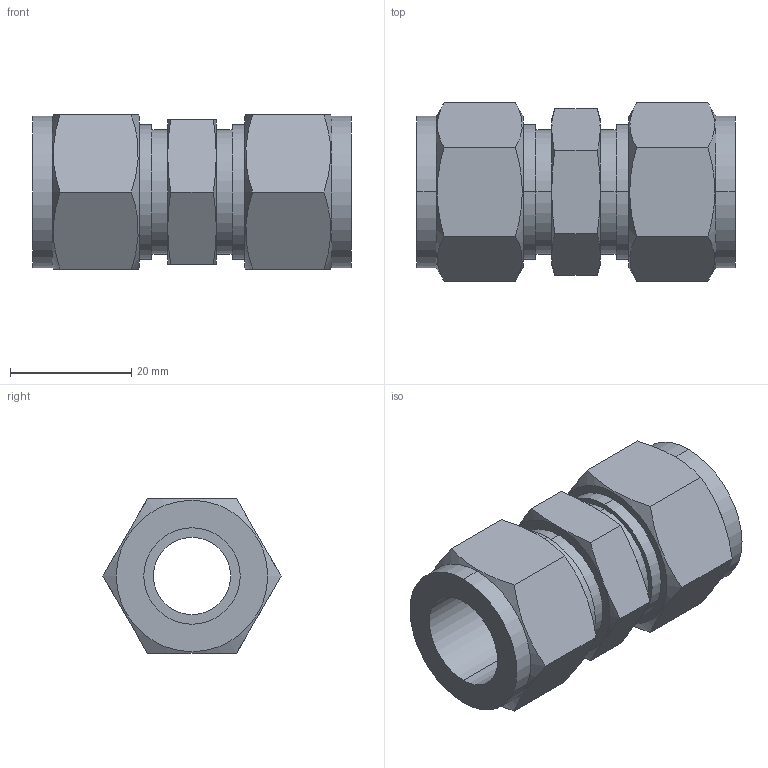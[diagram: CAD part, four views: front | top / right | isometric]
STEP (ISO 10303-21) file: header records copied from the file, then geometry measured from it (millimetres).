
FILE_DESCRIPTION (( 'STEP AP203' ), '1' );
FILE_NAME ('DUA10 SS.STEP', '2009-09-08T10:22:00', ( ' ' ), ( '' ), 'SwSTEP 2.0', 'SolidWorks 2008', '' );
FILE_SCHEMA (( 'CONFIG_CONTROL_DESIGN' ));
Length unit declared in the file: millimetre
Products named in the file (1): DUA10 SS
Bounding box: 52.4 x 29.33 x 25.4 mm (x, y, z)
Volume: 16099.8 mm3; surface area: 8362.5 mm2
Topology: 1 solids, 1 shells, 66 faces, 152 edges, 96 vertices
Faces by surface type: plane 28, cone 20, cylinder 18
Entity records: 2221 total; most frequent: CARTESIAN_POINT 707, ORIENTED_EDGE 304, DIRECTION 282, EDGE_CURVE 152, AXIS2_PLACEMENT_3D 119, VERTEX_POINT 96, EDGE_LOOP 76, ADVANCED_FACE 66
